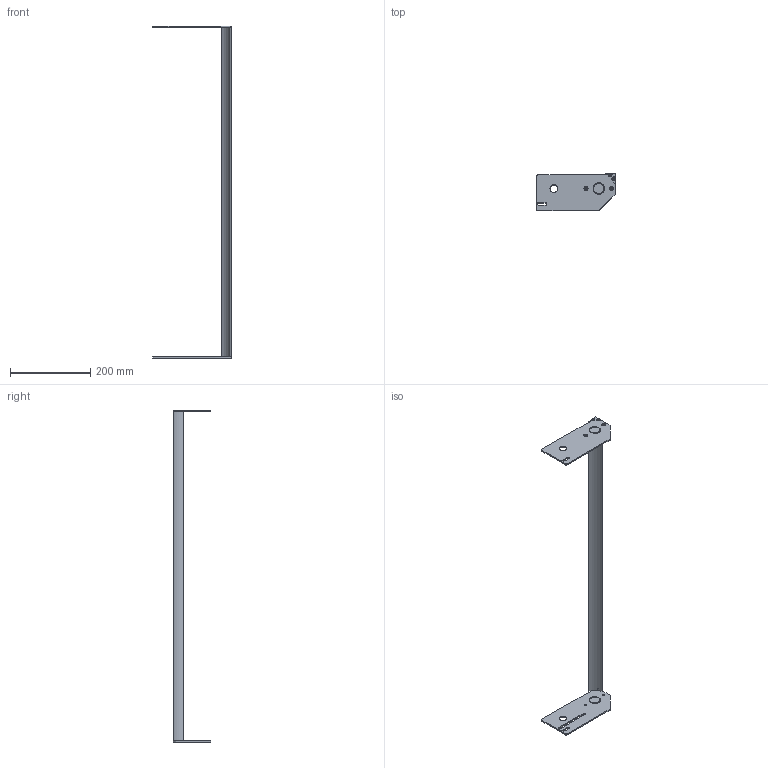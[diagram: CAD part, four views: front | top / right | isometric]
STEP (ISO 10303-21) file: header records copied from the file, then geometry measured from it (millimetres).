
FILE_DESCRIPTION((''),'2;1');
FILE_NAME('351040-32_ASM','2023-03-15T',('jenni.wallner'),(''),'PRO/ENGINEER BY PARAMETRIC TECHNOLOGY CORPORATION, 2012420','PRO/ENGINEER BY PARAMETRIC TECHNOLOGY CORPORATION, 2012420','');
FILE_SCHEMA(('CONFIG_CONTROL_DESIGN'));
Length unit declared in the file: inch
Products named in the file (6): 9304XXM_930410M; 350539-WW_350539-32; 350538; 350537; ASM0001_ASM; 351040-32_ASM
Assembly tree (8 placements, depth 3):
  351040-32_ASM
    ASM0001_ASM
      9304XXM_930410M  x4
      350539-WW_350539-32
      350538
      350537
Bounding box: 196.06 x 92.74 x 825.14 mm (x, y, z)
Volume: 330484.9 mm3; surface area: 160373.8 mm2
Topology: 7 solids, 7 shells, 216 faces, 536 edges, 334 vertices
Faces by surface type: cylinder 80, plane 76, cone 60
Entity records: 4974 total; most frequent: CARTESIAN_POINT 910, DIRECTION 885, ORIENTED_EDGE 790, EDGE_CURVE 395, AXIS2_PLACEMENT_3D 339, VERTEX_POINT 256, VECTOR 207, LINE 207
